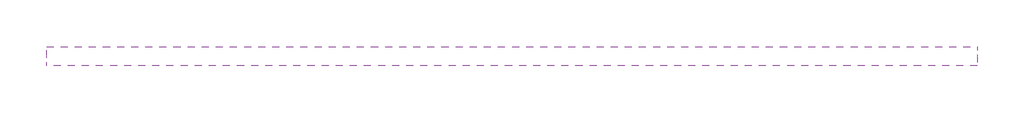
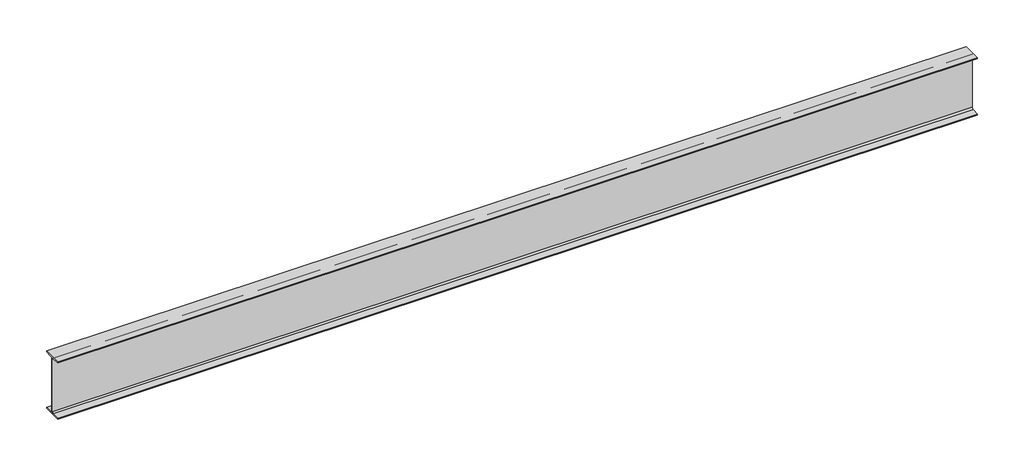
# One storey: 1 beam.
"""IFC4 building model written with IfcOpenShell, lengths in millimetres."""

from ifc_helpers import new_model, si_unit, origin, place, context, project, spatial, transform, mapped, element, save
from components import ukb533x165x66_52ba2ece

model = new_model("IFC4")

# Units and contexts
model_context = context("Model", 3, world=origin())
ifc_project = project(units=[si_unit("LENGTHUNIT", "METRE", prefix="MILLI")], contexts=[model_context])

# Site, building, storey
site = spatial("IfcSite", under=ifc_project)
building = spatial("IfcBuilding", under=site)
storey = spatial("IfcBuildingStorey", under=building, Name="GFL", Elevation=0.0)

# Beam
placement = place(None, origin())
ukb533x165x66_shape = ukb533x165x66_52ba2ece(model_context)
element("IfcBeam", 1, ObjectType="UKB-UK Beams : UKB533x165x66", at=placement, inside=storey, context=model_context, shape_type="MappedRepresentation", body=[
    mapped(ukb533x165x66_shape, transform((30055.7060496, -16745.9552001, 10737.65), x_axis=(-1.0, 0.0, 0.0), y_axis=(0.0, -1.0, 0.0), z_axis=(0.0, 0.0, 1.0))),
])

save(model, "model.ifc")
